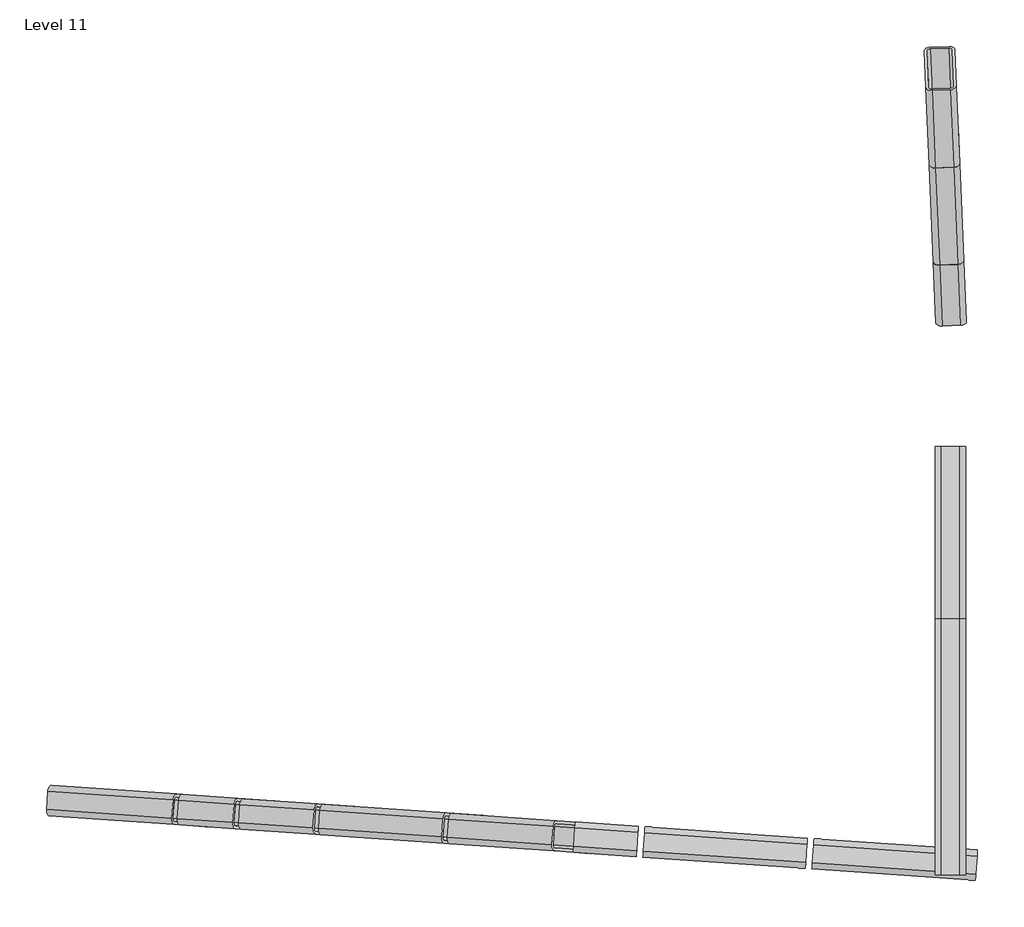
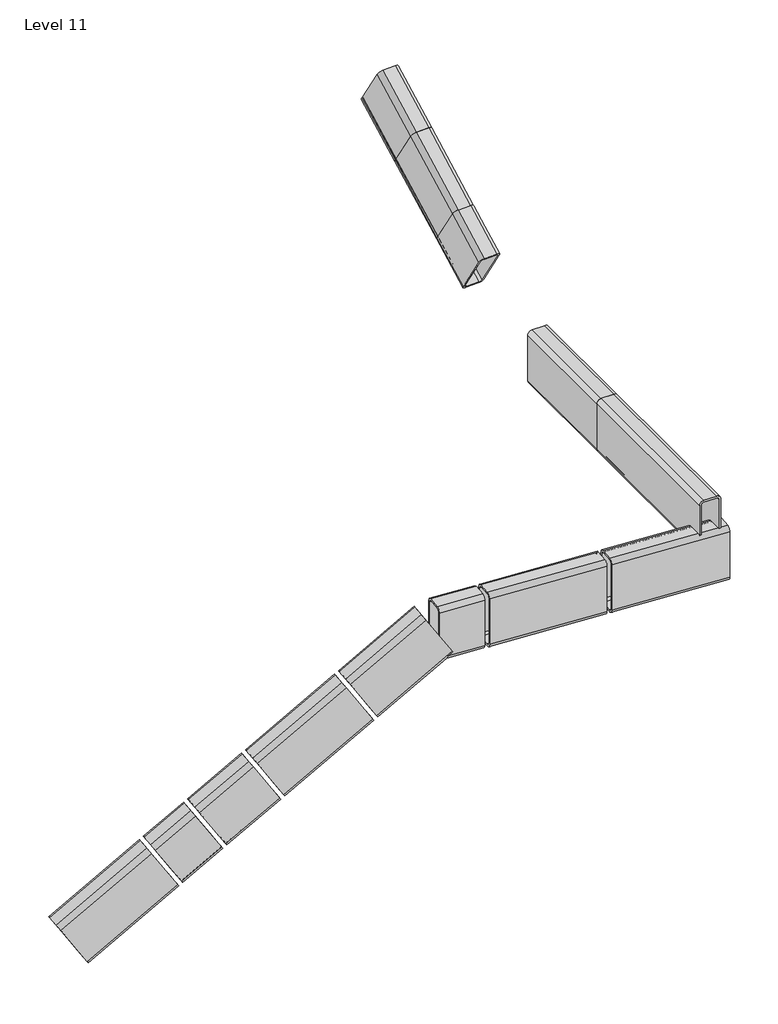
# One storey: 13 beams.
"""IFC4 building model written with IfcOpenShell, lengths in millimetres."""

from ifc_helpers import new_model, si_unit, point, frame, frame_2d, origin, place, context, project, spatial, polyline, circle_curve, trimmed, segment, composite_curve, outline, extrude, transform, mapped, element, save
from components import rectangular_and_square_hollow_sections_7d53bc1a, rectangular_and_square_hollow_sections_709efb63, rectangular_and_square_hollow_sections_b0ba7d90, rectangular_and_square_hollow_sections_f2b40b3e, rectangular_and_square_hollow_sections_b1a43adb, rectangular_and_square_hollow_sections_cb22ee98, rectangular_and_square_hollow_sections_9a3b0f0d, rectangular_and_square_hollow_sections_f70fa264, rectangular_and_square_hollow_sections_cc2f10b7, rectangular_and_square_hollow_sections_bc173b70, rectangular_and_square_hollow_sections_a32309e3

model = new_model("IFC4")

# Units and contexts
model_context = context("Model", 3, world=origin())
ifc_project = project(units=[si_unit("LENGTHUNIT", "METRE", prefix="MILLI")], contexts=[model_context])

# Site, building, storey
site = spatial("IfcSite", under=ifc_project)
building = spatial("IfcBuilding", under=site)
storey = spatial("IfcBuildingStorey", under=building, Name="Level 11", Elevation=1700.7172067)

# Beams
placement = place(None, origin())
element("IfcBeam", 1, ObjectType="Rectangular and Square Hollow Sections : TREC160x60x6", at=placement, inside=storey, context=model_context, shape_type="SweptSolid", body=[
    extrude(outline(composite_curve([segment(polyline([(-28.4515314, -68.6622921), (-31.5330646, 67.3027922)]), True, "CONTINUOUS"), segment(trimmed(circle_curve(frame_2d((-19.5361454, 67.5746922)), 12.0), [point((-31.5330646, 67.3027922))], [point((-19.8080454, 79.5716114))], False, "CARTESIAN"), True, "CONTINUOUS"), segment(polyline([(-19.8080454, 79.5716114), (16.1827122, 80.3873113)]), True, "CONTINUOUS"), segment(trimmed(circle_curve(frame_2d((16.4546122, 68.3903921)), 12.0), [point((16.1827122, 80.3873113))], [point((28.4515315, 68.6622921))], False, "CARTESIAN"), True, "CONTINUOUS"), segment(polyline([(28.4515315, 68.6622921), (31.5330647, -67.3027922)]), True, "CONTINUOUS"), segment(trimmed(circle_curve(frame_2d((19.5361454, -67.5746922)), 12.0), [point((31.5330647, -67.3027922))], [point((19.8080454, -79.5716114))], False, "CARTESIAN"), True, "CONTINUOUS"), segment(polyline([(19.8080454, -79.5716114), (-16.1827122, -80.3873113)]), True, "CONTINUOUS"), segment(trimmed(circle_curve(frame_2d((-16.4546122, -68.3903922)), 12.0), [point((-16.1827122, -80.3873113))], [point((-28.4515314, -68.6622921))], False, "CARTESIAN"), True, "CONTINUOUS")], self_intersect=False), holes=[composite_curve([segment(trimmed(circle_curve(frame_2d((19.5361454, -67.5746922)), 6.0), [point((19.6720954, -73.5731518))], [point((25.534605, -67.4387422))], True, "CARTESIAN"), True, "CONTINUOUS"), segment(polyline([(25.534605, -67.4387422), (22.4530718, 68.5263421)]), True, "CONTINUOUS"), segment(trimmed(circle_curve(frame_2d((16.4546122, 68.3903921)), 6.0), [point((22.4530718, 68.5263421))], [point((16.3186623, 74.3888517))], True, "CARTESIAN"), True, "CONTINUOUS"), segment(polyline([(16.3186623, 74.3888517), (-19.6720954, 73.5731518)]), True, "CONTINUOUS"), segment(trimmed(circle_curve(frame_2d((-19.5361454, 67.5746922)), 6.0), [point((-19.6720954, 73.5731518))], [point((-25.534605, 67.4387422))], True, "CARTESIAN"), True, "CONTINUOUS"), segment(polyline([(-25.534605, 67.4387422), (-22.4530718, -68.5263422)]), True, "CONTINUOUS"), segment(trimmed(circle_curve(frame_2d((-16.4546122, -68.3903922)), 6.0), [point((-22.4530718, -68.5263422))], [point((-16.3186622, -74.3888517))], True, "CARTESIAN"), True, "CONTINUOUS"), segment(polyline([(-16.3186622, -74.3888517), (19.6720954, -73.5731518)]), True, "CONTINUOUS")], self_intersect=False)]), frame((2579.8263474, 12.1465629, 2071.289296), z_axis=(-0.03627022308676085, 0.8474900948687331, 0.5295705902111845), x_axis=(0.999342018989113, 0.03075889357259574, 0.01922029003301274)), (0.0, 0.0, 1.0), 180.3677789),
])
element("IfcBeam", 2, ObjectType="Rectangular and Square Hollow Sections : TREC160x60x6", at=placement, inside=storey, context=model_context, shape_type="SweptSolid", body=[
    extrude(outline(composite_curve([segment(polyline([(68.0, -30.0), (-67.9999999, -30.0000001)]), True, "CONTINUOUS"), segment(trimmed(circle_curve(frame_2d((-67.9999999, -18.0)), 12.0), [point((-67.9999999, -30.0000001))], [point((-79.9999999, -18.0000001))], False, "CARTESIAN"), True, "CONTINUOUS"), segment(polyline([(-79.9999999, -18.0000001), (-79.9999999, 17.9999999)]), True, "CONTINUOUS"), segment(trimmed(circle_curve(frame_2d((-67.9999999, 18.0)), 12.0), [point((-79.9999999, 17.9999999))], [point((-67.9999999, 29.9999999))], False, "CARTESIAN"), True, "CONTINUOUS"), segment(polyline([(-67.9999999, 29.9999999), (68.0, 30.0)]), True, "CONTINUOUS"), segment(trimmed(circle_curve(frame_2d((68.0, 17.9999999)), 12.0), [point((68.0, 30.0))], [point((80.0, 18.0))], False, "CARTESIAN"), True, "CONTINUOUS"), segment(polyline([(80.0, 18.0), (80.0, -18.0)]), True, "CONTINUOUS"), segment(trimmed(circle_curve(frame_2d((68.0, -18.0)), 12.0), [point((80.0, -18.0))], [point((68.0, -30.0))], False, "CARTESIAN"), True, "CONTINUOUS")], self_intersect=False), holes=[composite_curve([segment(trimmed(circle_curve(frame_2d((68.0, 17.9999999)), 6.0), [point((74.0000001, 18.0))], [point((68.0, 24.0))], True, "CARTESIAN"), True, "CONTINUOUS"), segment(polyline([(68.0, 24.0), (-67.9999999, 24.0)]), True, "CONTINUOUS"), segment(trimmed(circle_curve(frame_2d((-67.9999999, 18.0)), 6.0), [point((-67.9999999, 24.0))], [point((-74.0, 18.0))], True, "CARTESIAN"), True, "CONTINUOUS"), segment(polyline([(-74.0, 18.0), (-74.0, -18.0)]), True, "CONTINUOUS"), segment(trimmed(circle_curve(frame_2d((-67.9999999, -18.0)), 6.0), [point((-74.0, -18.0))], [point((-67.9999999, -24.0))], True, "CARTESIAN"), True, "CONTINUOUS"), segment(polyline([(-67.9999999, -24.0), (68.0, -24.0000001)]), True, "CONTINUOUS"), segment(trimmed(circle_curve(frame_2d((68.0, -18.0)), 6.0), [point((68.0, -24.0000001))], [point((74.0000001, -18.0))], True, "CARTESIAN"), True, "CONTINUOUS"), segment(polyline([(74.0000001, -18.0), (74.0000001, 18.0)]), True, "CONTINUOUS")], self_intersect=False)]), frame((2587.990534, -178.6178601, 1952.086455), z_axis=(-0.03627021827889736, 0.8474900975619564, 0.5295705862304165), x_axis=(0.022643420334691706, -0.5290862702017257, 0.8482658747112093)), (0.0, 0.0, 1.0), 225.0933946),
])
rectangular_and_square_hollow_sections_shape = rectangular_and_square_hollow_sections_7d53bc1a(model_context)
element("IfcBeam", 3, ObjectType="Rectangular and Square Hollow Sections : TREC160x60x6", at=placement, inside=storey, context=model_context, shape_type="MappedRepresentation", body=[
    mapped(rectangular_and_square_hollow_sections_shape, transform((1750.4051574, -1339.5850266, 1633.996831), x_axis=(-0.8459822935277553, 0.05915684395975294, -0.5299192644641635), y_axis=(-0.06975647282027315, -0.9975640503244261, 0.0), z_axis=(-0.5286284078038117, 0.036965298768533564, 0.8480480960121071))),
])
rectangular_and_square_hollow_sections_2_shape = rectangular_and_square_hollow_sections_709efb63(model_context)
element("IfcBeam", 4, ObjectType="Rectangular and Square Hollow Sections : TREC160x60x6", at=placement, inside=storey, context=model_context, shape_type="MappedRepresentation", body=[
    mapped(rectangular_and_square_hollow_sections_2_shape, transform((2483.5443059, -1390.8511101, 1698.452242), x_axis=(-0.9975640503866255, 0.0697564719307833, 0.0), y_axis=(-0.0697564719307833, -0.9975640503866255, 0.0), z_axis=(0.0, 0.0, 1.0))),
])
rectangular_and_square_hollow_sections_3_shape = rectangular_and_square_hollow_sections_b0ba7d90(model_context)
element("IfcBeam", 5, ObjectType="Rectangular and Square Hollow Sections : TREC160x60x6", at=placement, inside=storey, context=model_context, shape_type="MappedRepresentation", body=[
    mapped(rectangular_and_square_hollow_sections_3_shape, transform((1915.5597189, -1351.1337586, 1698.452242), x_axis=(-0.997564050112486, 0.06975647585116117, 0.0), y_axis=(-0.06975647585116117, -0.997564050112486, 0.0), z_axis=(0.0, 0.0, 1.0))),
])
rectangular_and_square_hollow_sections_4_shape = rectangular_and_square_hollow_sections_f2b40b3e(model_context)
element("IfcBeam", 6, ObjectType="Rectangular and Square Hollow Sections : TREC160x60x6", at=placement, inside=storey, context=model_context, shape_type="MappedRepresentation", body=[
    mapped(rectangular_and_square_hollow_sections_4_shape, transform((1304.8069359, -1308.4257641, 1354.8762355), x_axis=(-0.8459822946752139, 0.05915684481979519, -0.5299192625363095), y_axis=(-0.06975647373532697, -0.9975640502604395, 0.0), z_axis=(-0.5286284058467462, 0.03696529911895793, 0.848048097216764))),
])
rectangular_and_square_hollow_sections_5_shape = rectangular_and_square_hollow_sections_b1a43adb(model_context)
element("IfcBeam", 7, ObjectType="Rectangular and Square Hollow Sections : TREC160x60x6", at=placement, inside=storey, context=model_context, shape_type="MappedRepresentation", body=[
    mapped(rectangular_and_square_hollow_sections_5_shape, transform((1171.4041469, -1299.0973321, 1271.3133665), x_axis=(-0.8459822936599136, 0.059156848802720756, -0.529919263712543), y_axis=(-0.0697564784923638, -0.9975640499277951, 0.0), z_axis=(-0.5286284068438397, 0.03696530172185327, 0.8480480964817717))),
])
rectangular_and_square_hollow_sections_6_shape = rectangular_and_square_hollow_sections_cb22ee98(model_context)
element("IfcBeam", 8, ObjectType="Rectangular and Square Hollow Sections : TREC160x60x6", at=placement, inside=storey, context=model_context, shape_type="MappedRepresentation", body=[
    mapped(rectangular_and_square_hollow_sections_6_shape, transform((2150.2416854, -1367.5443206, 1698.452242), x_axis=(-0.9975640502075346, 0.06975647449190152, 0.0), y_axis=(-0.06975647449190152, -0.9975640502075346, 0.0), z_axis=(0.0, 0.0, 1.0))),
])
rectangular_and_square_hollow_sections_7_shape = rectangular_and_square_hollow_sections_9a3b0f0d(model_context)
element("IfcBeam", 9, ObjectType="Rectangular and Square Hollow Sections : TREC160x60x6", at=placement, inside=storey, context=model_context, shape_type="MappedRepresentation", body=[
    mapped(rectangular_and_square_hollow_sections_7_shape, transform((1515.5164379, -1323.1600076, 1486.86366), x_axis=(-0.8459822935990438, 0.05915684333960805, -0.5299192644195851), y_axis=(-0.06975647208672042, -0.9975640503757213, 0.0), z_axis=(-0.5286284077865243, 0.036965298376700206, 0.8480480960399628))),
])
rectangular_and_square_hollow_sections_8_shape = rectangular_and_square_hollow_sections_f70fa264(model_context)
element("IfcBeam", 10, ObjectType="Rectangular and Square Hollow Sections : TREC160x60x6", at=placement, inside=storey, context=model_context, shape_type="MappedRepresentation", body=[
    mapped(rectangular_and_square_hollow_sections_8_shape, transform((982.8821804, -1285.9145916, 1153.224108), x_axis=(-0.8459822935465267, 0.05915684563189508, -0.5299192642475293), y_axis=(-0.0697564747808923, -0.9975640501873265, 0.0), z_axis=(-0.5286284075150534, 0.03696529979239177, 0.8480480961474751))),
])
rectangular_and_square_hollow_sections_9_shape = rectangular_and_square_hollow_sections_cc2f10b7(model_context)
element("IfcBeam", 11, ObjectType="Rectangular and Square Hollow Sections : TREC160x60x6", at=placement, inside=storey, context=model_context, shape_type="MappedRepresentation", body=[
    mapped(rectangular_and_square_hollow_sections_9_shape, transform((2593.1285804, -748.6734831, 1797.067375), x_axis=(0.0, -1.0, 0.0), y_axis=(1.0, 0.0, 0.0), z_axis=(0.0, 0.0, 1.0))),
])
rectangular_and_square_hollow_sections_10_shape = rectangular_and_square_hollow_sections_bc173b70(model_context)
element("IfcBeam", 12, ObjectType="Rectangular and Square Hollow Sections : TREC160x60x6", at=placement, inside=storey, context=model_context, shape_type="MappedRepresentation", body=[
    mapped(rectangular_and_square_hollow_sections_10_shape, transform((2590.5612509, -238.6852471, 1914.5521855), x_axis=(-0.03627021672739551, 0.8474900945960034, 0.5295705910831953), y_axis=(-0.9990854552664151, -0.042758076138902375, 0.0), z_axis=(0.0226434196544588, -0.5290862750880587, 0.8482658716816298))),
])
rectangular_and_square_hollow_sections_11_shape = rectangular_and_square_hollow_sections_a32309e3(model_context)
element("IfcBeam", 13, ObjectType="Rectangular and Square Hollow Sections : TREC160x60x6", at=placement, inside=storey, context=model_context, shape_type="MappedRepresentation", body=[
    mapped(rectangular_and_square_hollow_sections_11_shape, transform((2593.1285804, -1169.815632, 1797.076207), x_axis=(0.0, -0.9999999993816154, 3.5167728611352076e-05), y_axis=(1.0, 0.0, 0.0), z_axis=(0.0, 3.516772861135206e-05, 0.9999999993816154))),
])

save(model, "model.ifc")
